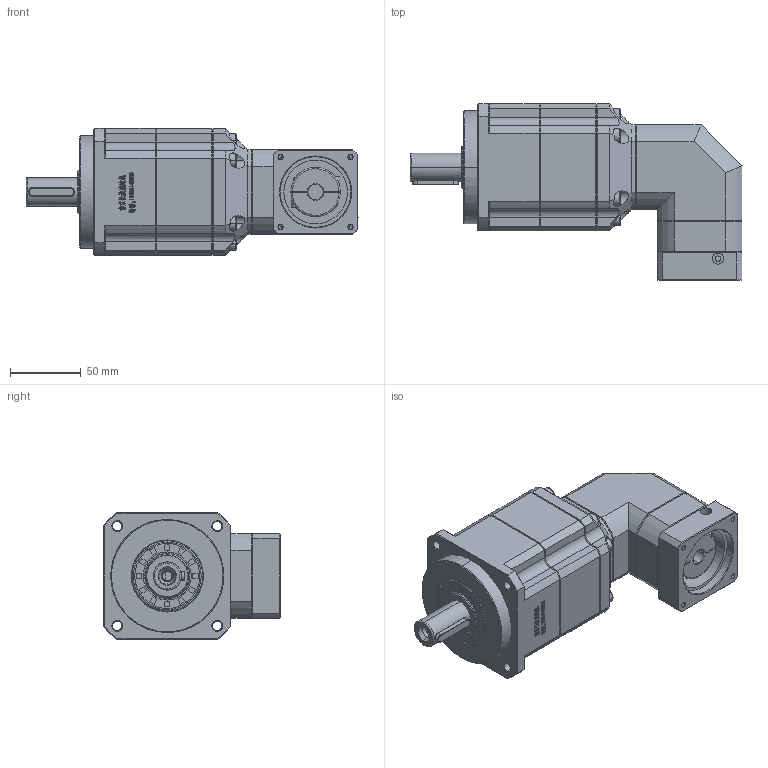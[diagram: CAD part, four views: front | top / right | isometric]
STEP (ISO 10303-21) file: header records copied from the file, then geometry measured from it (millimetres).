
FILE_DESCRIPTION (( 'STEP AP214' ), '1' );
FILE_NAME ('ZPBR090-D20-L3-P1-11-50-70-M4.step', '2024-06-07T18:32:12', ( 'Windows 蚚誧' ), ( 'Organization' ), 'SwSTEP 2.0', 'SolidWorks 2016', '' );
FILE_SCHEMA (( 'AUTOMOTIVE_DESIGN' ));
Length unit declared in the file: millimetre
Products named in the file (1): ZPBR090-D20-L3-P1-11-50-70-M4
Bounding box: 235 x 125 x 90 mm (x, y, z)
Surface area: 100429.6 mm2 (no closed solid volume)
Topology: 0 solids, 30 shells, 2091 faces, 5512 edges, 3507 vertices
Faces by surface type: plane 1119, bspline 371, cylinder 295, cone 279, torus 27
Entity records: 102173 total; most frequent: CARTESIAN_POINT 51572, ORIENTED_EDGE 10986, DIRECTION 7406, EDGE_CURVE 5512, VERTEX_POINT 3507, VECTOR 2590, LINE 2590, AXIS2_PLACEMENT_3D 2408
